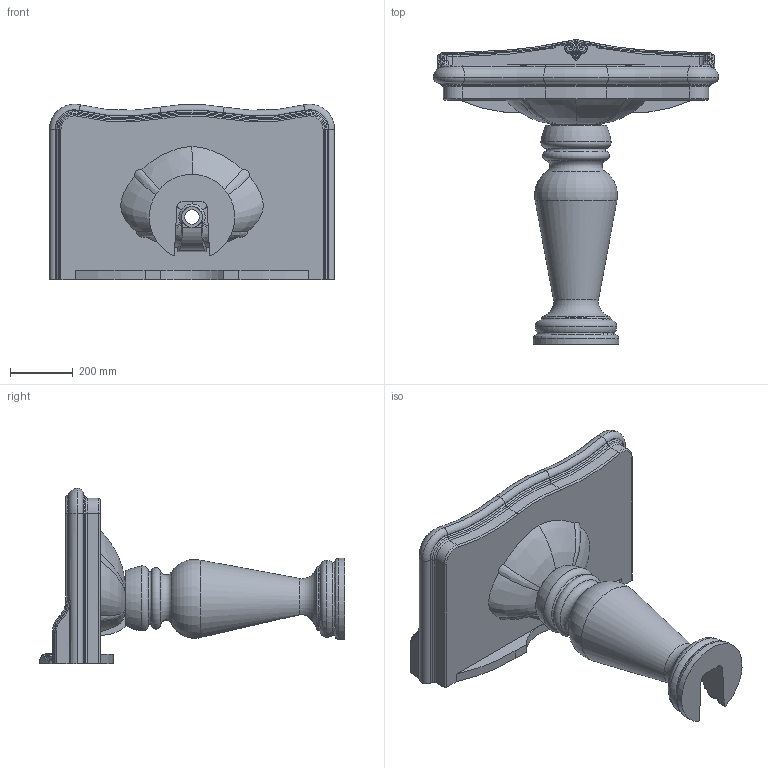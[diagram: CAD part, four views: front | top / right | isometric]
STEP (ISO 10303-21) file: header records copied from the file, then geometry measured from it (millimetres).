
FILE_DESCRIPTION (( 'STEP AP214' ), '1' );
FILE_NAME ('JUB200_90 JUB300.STEP', '2017-12-12T06:44:34', ( '' ), ( '' ), 'SwSTEP 2.0', 'SolidWorks 2018', '' );
FILE_SCHEMA (( 'AUTOMOTIVE_DESIGN' ));
Length unit declared in the file: millimetre
Products named in the file (3): JUB300; JUB200 90; JUB200_90 JUB300
Assembly tree (2 placements, depth 2):
  JUB200_90 JUB300
    JUB200 90
    JUB300
Bounding box: 910 x 973.16 x 559.77 mm (x, y, z)
Volume: 51570630 mm3; surface area: 2296117.8 mm2
Topology: 2 solids, 2 shells, 763 faces, 1781 edges, 1006 vertices
Faces by surface type: bspline 332, torus 205, cylinder 127, plane 52, sphere 42, cone 5
Full cylindrical faces by diameter (mm): 20 x1, 35 x3, 46 x1
Entity records: 71101 total; most frequent: CARTESIAN_POINT 55881, ORIENTED_EDGE 3496, DIRECTION 2861, EDGE_CURVE 1748, AXIS2_PLACEMENT_3D 1328, VERTEX_POINT 1003, CIRCLE 892, EDGE_LOOP 779
